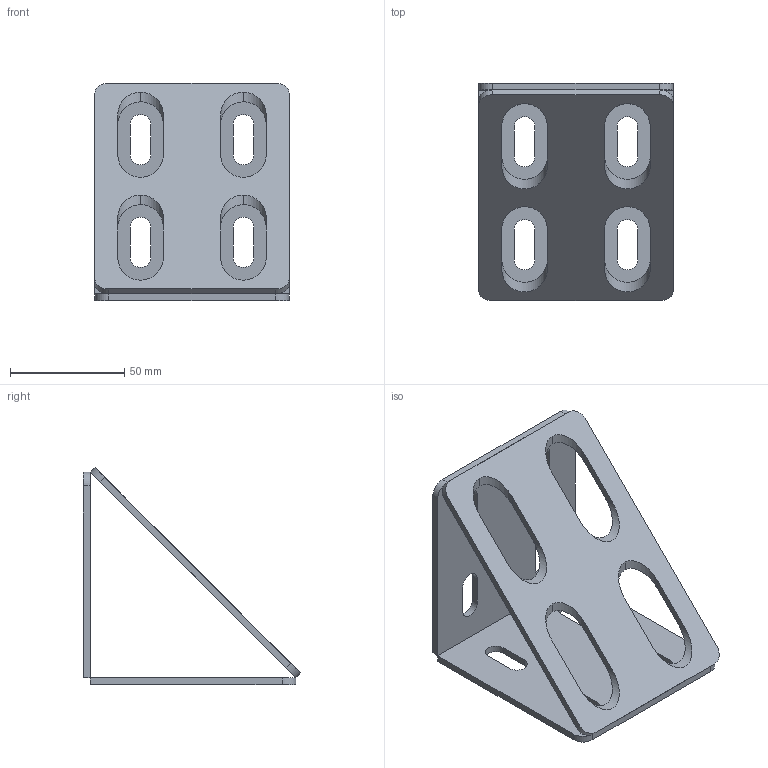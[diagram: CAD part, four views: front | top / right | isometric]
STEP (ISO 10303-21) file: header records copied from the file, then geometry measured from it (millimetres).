
FILE_DESCRIPTION (( 'STEP AP214' ), '1' );
FILE_NAME ('8304.STEP', '2017-10-27T12:17:24', ( '' ), ( '' ), 'SwSTEP 2.0', 'SolidWorks 2014', '' );
FILE_SCHEMA (( 'AUTOMOTIVE_DESIGN' ));
Length unit declared in the file: millimetre
Products named in the file (6): 8304 - 1; 8304; 8304 - 2
Assembly tree (3 placements, depth 2):
  8304 - 1
  8304 - 1
  8304
    8304 - 1  x2
    8304 - 2
  8304 - 2
Bounding box: 85 x 95.12 x 95.12 mm (x, y, z)
Volume: 63372.2 mm3; surface area: 48441.9 mm2
Topology: 3 solids, 3 shells, 78 faces, 216 edges, 144 vertices
Faces by surface type: plane 42, cylinder 36
Entity records: 1909 total; most frequent: CARTESIAN_POINT 383, ORIENTED_EDGE 300, DIRECTION 276, EDGE_CURVE 150, VERTEX_POINT 100, LINE 98, VECTOR 98, AXIS2_PLACEMENT_3D 89
